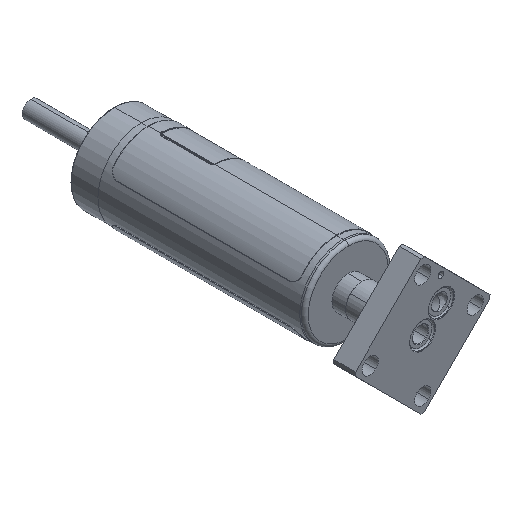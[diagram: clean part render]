
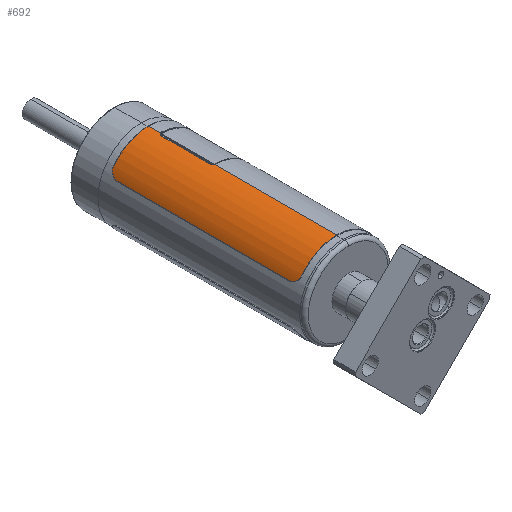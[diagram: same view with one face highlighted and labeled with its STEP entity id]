
A CAD part, isometric view. The second image highlights one B-rep face of the part: STEP entity #692.
In plain terms, the highlighted cylindrical face has radius 12.878 mm (diameter 25.756 mm), a partial arc.
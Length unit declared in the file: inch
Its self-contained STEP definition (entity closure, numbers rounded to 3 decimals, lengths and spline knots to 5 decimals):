
#32 = CARTESIAN_POINT ( 'NONE',  ( -0.4533, 2.36063, 0.22709 ) ) ;
#120 = CARTESIAN_POINT ( 'NONE',  ( -0.44393, 0.32794, 0.24508 ) ) ;
#126 = EDGE_CURVE ( 'NONE', #8483, #4934, #1243, .T. ) ;
#198 = EDGE_CURVE ( 'NONE', #2785, #7624, #8173, .T. ) ;
#311 = EDGE_CURVE ( 'NONE', #967, #7740, #2659, .T. ) ;
#508 = CARTESIAN_POINT ( 'NONE',  ( -0.45329, 2.37393, 0.2271 ) ) ;
#524 = VECTOR ( 'NONE', #8566, 39.37008 ) ;
#570 = DIRECTION ( 'NONE',  ( 0., 0., -1. ) ) ;
#635 = ORIENTED_EDGE ( 'NONE', *, *, #198, .T. ) ;
#644 = CARTESIAN_POINT ( 'NONE',  ( -0.4533, 0.38937, 0.22709 ) ) ;
#691 = LINE ( 'NONE', #878, #524 ) ;
#692 = ADVANCED_FACE ( 'NONE', ( #702 ), #3043, .T. ) ;
#702 = FACE_OUTER_BOUND ( 'NONE', #3108, .T. ) ;
#846 = CARTESIAN_POINT ( 'NONE',  ( 0., 0., 0.507 ) ) ;
#878 = CARTESIAN_POINT ( 'NONE',  ( -0.01987, 0., 0.50661 ) ) ;
#937 = CARTESIAN_POINT ( 'NONE',  ( -0.43687, 0.31402, 0.25732 ) ) ;
#967 = VERTEX_POINT ( 'NONE', #32 ) ;
#1239 = CARTESIAN_POINT ( 'NONE',  ( -0.00571, 2.31375, 0.50697 ) ) ;
#1243 = B_SPLINE_CURVE_WITH_KNOTS ( 'NONE', 3,
 ( #8855, #6358, #8089, #5743, #9472, #9423, #2455, #1841 ),
 .UNSPECIFIED., .F., .F.,
 ( 4, 2, 2, 4 ),
 ( 0., 0.25, 0.5, 0.66538 ),
 .UNSPECIFIED. ) ;
#1251 = EDGE_CURVE ( 'NONE', #8123, #8483, #691, .T. ) ;
#1606 = CARTESIAN_POINT ( 'NONE',  ( -0.43426, 0.30987, 0.26172 ) ) ;
#1789 = VECTOR ( 'NONE', #9111, 39.37008 ) ;
#1841 = CARTESIAN_POINT ( 'NONE',  ( 0., 1.69823, 0.507 ) ) ;
#1857 = VERTEX_POINT ( 'NONE', #7069 ) ;
#1928 = CARTESIAN_POINT ( 'NONE',  ( -0.44158, 2.4267, 0.24916 ) ) ;
#2007 = CARTESIAN_POINT ( 'NONE',  ( 0., 0.28937, 0. ) ) ;
#2018 = DIRECTION ( 'NONE',  ( 0., -1., 0. ) ) ;
#2052 = ORIENTED_EDGE ( 'NONE', *, *, #2125, .F. ) ;
#2057 = DIRECTION ( 'NONE',  ( 0., 0., -1. ) ) ;
#2063 = CARTESIAN_POINT ( 'NONE',  ( -0.39915, 2.46063, 0.31262 ) ) ;
#2083 = CARTESIAN_POINT ( 'NONE',  ( -0.01987, 2.28346, 0.50661 ) ) ;
#2084 = EDGE_CURVE ( 'NONE', #8602, #8123, #2415, .T. ) ;
#2125 = EDGE_CURVE ( 'NONE', #6252, #1857, #7547, .T. ) ;
#2328 = DIRECTION ( 'NONE',  ( 0., -1., 0. ) ) ;
#2372 = CARTESIAN_POINT ( 'NONE',  ( -0.42532, 0.29951, 0.27603 ) ) ;
#2415 = B_SPLINE_CURVE_WITH_KNOTS ( 'NONE', 3,
 ( #7203, #4368, #1239, #9599, #8015, #3253, #3597, #2774 ),
 .UNSPECIFIED., .F., .F.,
 ( 4, 2, 2, 4 ),
 ( 0.3346, 0.5, 0.75, 1. ),
 .UNSPECIFIED. ) ;
#2455 = CARTESIAN_POINT ( 'NONE',  ( -0.00298, 1.69993, 0.507 ) ) ;
#2530 = DIRECTION ( 'NONE',  ( 0., -1., 0. ) ) ;
#2659 = LINE ( 'NONE', #5950, #1789 ) ;
#2774 = CARTESIAN_POINT ( 'NONE',  ( -0.01987, 2.28346, 0.50661 ) ) ;
#2785 = VERTEX_POINT ( 'NONE', #7191 ) ;
#3043 = CYLINDRICAL_SURFACE ( 'NONE', #6073, 0.507 ) ;
#3108 = EDGE_LOOP ( 'NONE', ( #6451, #635, #5052, #4441, #7190, #2052, #9270, #7289, #4813, #8754 ) ) ;
#3142 = CARTESIAN_POINT ( 'NONE',  ( -0.42844, 0.30258, 0.27114 ) ) ;
#3253 = CARTESIAN_POINT ( 'NONE',  ( -0.01886, 2.29371, 0.50665 ) ) ;
#3515 = CARTESIAN_POINT ( 'NONE',  ( -0.44362, 2.42165, 0.24549 ) ) ;
#3529 = VECTOR ( 'NONE', #2018, 39.37008 ) ;
#3597 = CARTESIAN_POINT ( 'NONE',  ( -0.01987, 2.28869, 0.50661 ) ) ;
#3722 = EDGE_CURVE ( 'NONE', #4934, #6252, #7907, .T. ) ;
#3814 = DIRECTION ( 'NONE',  ( 0., 0., -1. ) ) ;
#3911 = CARTESIAN_POINT ( 'NONE',  ( -0.44744, 0.33897, 0.23848 ) ) ;
#3960 = CARTESIAN_POINT ( 'NONE',  ( -0.45184, 0.36345, 0.22997 ) ) ;
#4163 = CARTESIAN_POINT ( 'NONE',  ( 0., 0., 0.507 ) ) ;
#4368 = CARTESIAN_POINT ( 'NONE',  ( -0.00298, 2.31582, 0.507 ) ) ;
#4441 = ORIENTED_EDGE ( 'NONE', *, *, #311, .T. ) ;
#4563 = CARTESIAN_POINT ( 'NONE',  ( -0.01987, 1.73228, 0.50661 ) ) ;
#4632 = CARTESIAN_POINT ( 'NONE',  ( 0., 0., 0. ) ) ;
#4786 = CARTESIAN_POINT ( 'NONE',  ( -0.40746, 0.28938, 0.30201 ) ) ;
#4813 = ORIENTED_EDGE ( 'NONE', *, *, #1251, .F. ) ;
#4934 = VERTEX_POINT ( 'NONE', #9746 ) ;
#5006 = CARTESIAN_POINT ( 'NONE',  ( -0.40727, 2.45998, 0.30203 ) ) ;
#5052 = ORIENTED_EDGE ( 'NONE', *, *, #10076, .T. ) ;
#5057 = CARTESIAN_POINT ( 'NONE',  ( -0.4486, 2.40501, 0.23624 ) ) ;
#5430 = B_SPLINE_CURVE_WITH_KNOTS ( 'NONE', 3,
 ( #7463, #7355, #5006, #9768, #8126, #8939, #7408, #1928, #3515, #9042, #5057, #8890, #508, #9097 ),
 .UNSPECIFIED., .F., .F.,
 ( 4, 2, 2, 2, 2, 2, 4 ),
 ( 0., 0.125, 0.25, 0.5, 0.625, 0.75, 1. ),
 .UNSPECIFIED. ) ;
#5652 = CARTESIAN_POINT ( 'NONE',  ( -0.45096, 0.35717, 0.23171 ) ) ;
#5743 = CARTESIAN_POINT ( 'NONE',  ( -0.01481, 1.71239, 0.50679 ) ) ;
#5848 = CARTESIAN_POINT ( 'NONE',  ( 0., 2.46063, 0. ) ) ;
#5950 = CARTESIAN_POINT ( 'NONE',  ( -0.4533, 0., 0.22709 ) ) ;
#6073 = AXIS2_PLACEMENT_3D ( 'NONE', #4632, #2328, #3814 ) ;
#6081 = VECTOR ( 'NONE', #6522, 39.37008 ) ;
#6139 = EDGE_CURVE ( 'NONE', #2785, #8602, #9032, .T. ) ;
#6224 = AXIS2_PLACEMENT_3D ( 'NONE', #5848, #6713, #570 ) ;
#6252 = VERTEX_POINT ( 'NONE', #6995 ) ;
#6358 = CARTESIAN_POINT ( 'NONE',  ( -0.01986, 1.727, 0.50661 ) ) ;
#6380 = EDGE_CURVE ( 'NONE', #7740, #1857, #8223, .T. ) ;
#6451 = ORIENTED_EDGE ( 'NONE', *, *, #6139, .F. ) ;
#6522 = DIRECTION ( 'NONE',  ( 0., -1., 0. ) ) ;
#6713 = DIRECTION ( 'NONE',  ( 0., -1., 0. ) ) ;
#6976 = CARTESIAN_POINT ( 'NONE',  ( 0., 2.31752, 0.507 ) ) ;
#6995 = CARTESIAN_POINT ( 'NONE',  ( 0., 0.28937, 0.507 ) ) ;
#7069 = CARTESIAN_POINT ( 'NONE',  ( -0.39915, 0.28937, 0.31262 ) ) ;
#7190 = ORIENTED_EDGE ( 'NONE', *, *, #6380, .T. ) ;
#7191 = CARTESIAN_POINT ( 'NONE',  ( 0., 2.46063, 0.507 ) ) ;
#7203 = CARTESIAN_POINT ( 'NONE',  ( 0., 2.31752, 0.507 ) ) ;
#7233 = CARTESIAN_POINT ( 'NONE',  ( -0.4533, 0.38937, 0.22709 ) ) ;
#7289 = ORIENTED_EDGE ( 'NONE', *, *, #126, .F. ) ;
#7355 = CARTESIAN_POINT ( 'NONE',  ( -0.4033, 2.46062, 0.30731 ) ) ;
#7408 = CARTESIAN_POINT ( 'NONE',  ( -0.43452, 2.44062, 0.2614 ) ) ;
#7463 = CARTESIAN_POINT ( 'NONE',  ( -0.39915, 2.46063, 0.31262 ) ) ;
#7547 = CIRCLE ( 'NONE', #8199, 0.507 ) ;
#7624 = VERTEX_POINT ( 'NONE', #2063 ) ;
#7740 = VERTEX_POINT ( 'NONE', #644 ) ;
#7907 = LINE ( 'NONE', #846, #6081 ) ;
#8015 = CARTESIAN_POINT ( 'NONE',  ( -0.01481, 2.30335, 0.50679 ) ) ;
#8089 = CARTESIAN_POINT ( 'NONE',  ( -0.01886, 1.72204, 0.50665 ) ) ;
#8123 = VERTEX_POINT ( 'NONE', #2083 ) ;
#8126 = CARTESIAN_POINT ( 'NONE',  ( -0.41847, 2.45553, 0.2863 ) ) ;
#8173 = CIRCLE ( 'NONE', #6224, 0.507 ) ;
#8199 = AXIS2_PLACEMENT_3D ( 'NONE', #2007, #2530, #2057 ) ;
#8223 = B_SPLINE_CURVE_WITH_KNOTS ( 'NONE', 3,
 ( #7233, #8621, #9383, #3960, #5652, #3911, #120, #937, #1606, #3142, #2372, #9434, #4786, #8573 ),
 .UNSPECIFIED., .F., .F.,
 ( 4, 2, 2, 2, 2, 2, 4 ),
 ( 0., 0.125, 0.25, 0.5, 0.625, 0.75, 1. ),
 .UNSPECIFIED. ) ;
#8483 = VERTEX_POINT ( 'NONE', #4563 ) ;
#8566 = DIRECTION ( 'NONE',  ( 0., -1., 0. ) ) ;
#8573 = CARTESIAN_POINT ( 'NONE',  ( -0.39915, 0.28937, 0.31262 ) ) ;
#8602 = VERTEX_POINT ( 'NONE', #6976 ) ;
#8621 = CARTESIAN_POINT ( 'NONE',  ( -0.45329, 0.38272, 0.2271 ) ) ;
#8754 = ORIENTED_EDGE ( 'NONE', *, *, #2084, .F. ) ;
#8855 = CARTESIAN_POINT ( 'NONE',  ( -0.01987, 1.73228, 0.50661 ) ) ;
#8890 = CARTESIAN_POINT ( 'NONE',  ( -0.45216, 2.38668, 0.22941 ) ) ;
#8939 = CARTESIAN_POINT ( 'NONE',  ( -0.4287, 2.44799, 0.27095 ) ) ;
#9032 = LINE ( 'NONE', #4163, #3529 ) ;
#9042 = CARTESIAN_POINT ( 'NONE',  ( -0.44715, 2.41073, 0.23899 ) ) ;
#9097 = CARTESIAN_POINT ( 'NONE',  ( -0.4533, 2.36063, 0.22709 ) ) ;
#9111 = DIRECTION ( 'NONE',  ( 0., -1., 0. ) ) ;
#9270 = ORIENTED_EDGE ( 'NONE', *, *, #3722, .F. ) ;
#9383 = CARTESIAN_POINT ( 'NONE',  ( -0.45301, 0.37621, 0.22768 ) ) ;
#9423 = CARTESIAN_POINT ( 'NONE',  ( -0.00571, 1.702, 0.50697 ) ) ;
#9434 = CARTESIAN_POINT ( 'NONE',  ( -0.41501, 0.29192, 0.29149 ) ) ;
#9472 = CARTESIAN_POINT ( 'NONE',  ( -0.01192, 1.70814, 0.50687 ) ) ;
#9599 = CARTESIAN_POINT ( 'NONE',  ( -0.01193, 2.30761, 0.50687 ) ) ;
#9746 = CARTESIAN_POINT ( 'NONE',  ( 0., 1.69823, 0.507 ) ) ;
#9768 = CARTESIAN_POINT ( 'NONE',  ( -0.41484, 2.45745, 0.29154 ) ) ;
#10076 = EDGE_CURVE ( 'NONE', #7624, #967, #5430, .T. ) ;
